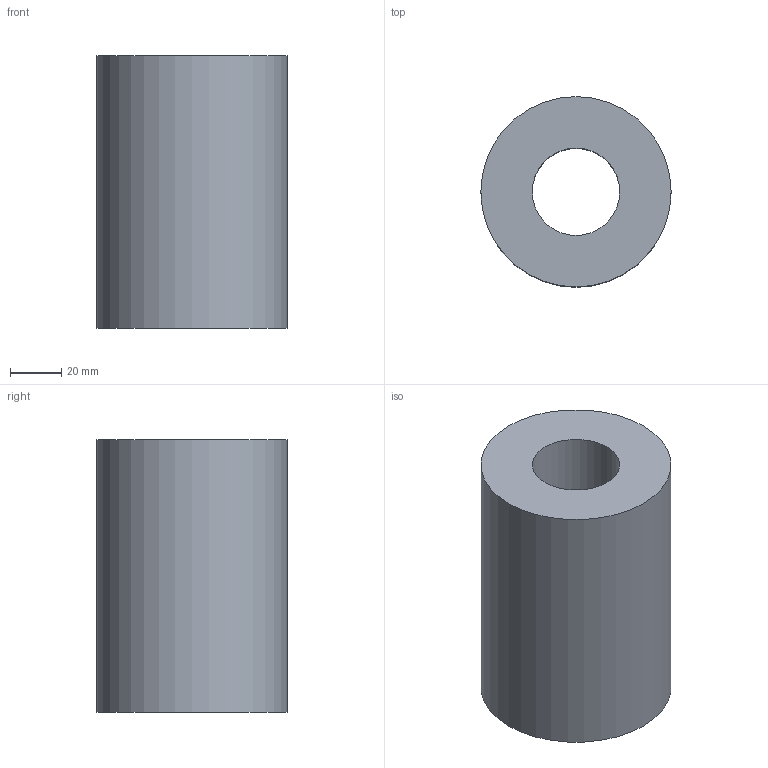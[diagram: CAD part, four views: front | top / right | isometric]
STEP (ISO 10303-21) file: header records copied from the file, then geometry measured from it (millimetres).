
FILE_DESCRIPTION(('Open CASCADE Model'),'2;1');
FILE_NAME('Open CASCADE Shape Model','2026-10-08T06:53:12',('Author'),( 'Open CASCADE'),'Open CASCADE STEP processor 7.8','Open CASCADE 7.8' ,'Unknown');
FILE_SCHEMA(('AUTOMOTIVE_DESIGN { 1 0 10303 214 1 1 1 1 }'));
Length unit declared in the file: millimetre
Products named in the file (1): Open CASCADE STEP translator 7.8 4
Bounding box: 74 x 74 x 106 mm (x, y, z)
Volume: 359649.5 mm3; surface area: 42750.8 mm2
Topology: 1 solids, 1 shells, 4 faces, 6 edges, 4 vertices
Faces by surface type: cylinder 2, plane 2
Full cylindrical faces by diameter (mm): 34 x1, 74 x1
Entity records: 192 total; most frequent: CARTESIAN_POINT 39, DIRECTION 30, ORIENTED_EDGE 12, PCURVE 12, DEFINITIONAL_REPRESENTATION 12, LINE 10, VECTOR 10, AXIS2_PLACEMENT_3D 9
